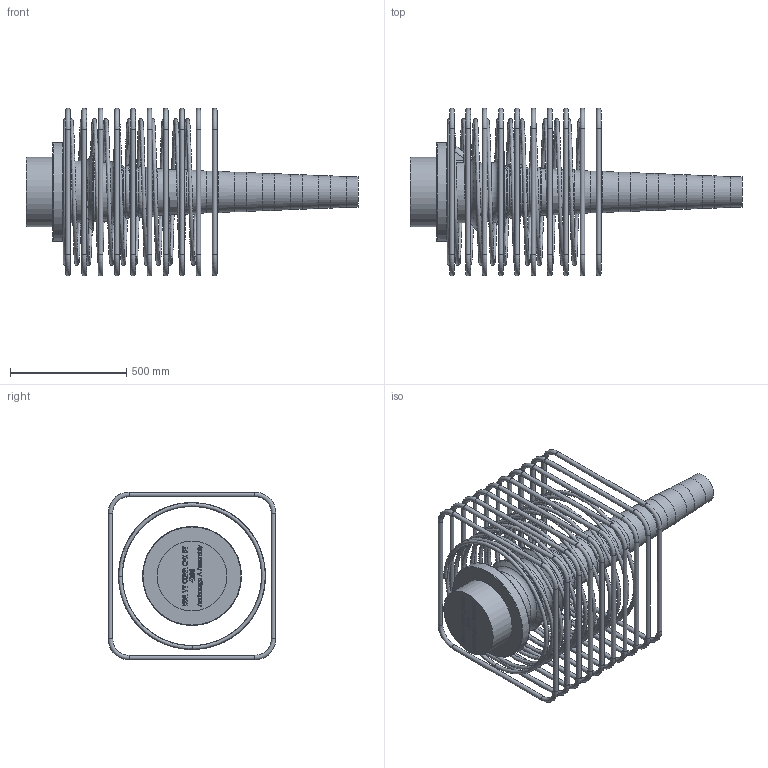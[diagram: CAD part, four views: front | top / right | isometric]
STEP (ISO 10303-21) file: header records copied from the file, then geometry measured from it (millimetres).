
FILE_DESCRIPTION(/* description */ (''),/* implementation_level */ '2;1');
FILE_NAME(/* name */ 'Z:\04 Publications\05 Give-out\BBR\6_3D_Models\BBR VT CONA CMI\BBR VT CONA CMI BT\04206\BBR VT CONA CMI BT 4206_Anchorage A Assembly_CS-34,28.stp',/* time_stamp */ '2017-05-05T10:56:23+02:00',/* author */ ('IP'),/* organization */ (''),/* preprocessor_version */ 'ST-DEVELOPER v16.1',/* originating_system */ 'Autodesk Inventor 2016',/* authorisation */ '');
FILE_SCHEMA (('AUTOMOTIVE_DESIGN { 1 0 10303 214 3 1 1 }'));
Length unit declared in the file: millimetre
Products named in the file (1): BBR VT CONA CMI BT 4206_Anchorage A Assembly_CS-34,28
Bounding box: 1425.3 x 720 x 720 mm (x, y, z)
Volume: 66184398.8 mm3; surface area: 4140392.7 mm2
Topology: 12 solids, 12 shells, 782 faces, 2013 edges, 1290 vertices
Faces by surface type: plane 329, bspline 299, torus 79, cylinder 62, cone 11, sphere 2
Full cylindrical faces by diameter (mm): 20 x40, 35 x1, 57 x1, 129 x1, 139 x1, 149 x1, 159 x1, 169 x1, 179 x1, 251 x1, 300 x1, 333 x1, 348 x1, 425 x1
Entity records: 31050 total; most frequent: CARTESIAN_POINT 13757, ORIENTED_EDGE 3742, DIRECTION 2412, EDGE_CURVE 1871, VERTEX_POINT 1283, LINE 1078, VECTOR 1078, EDGE_LOOP 974
